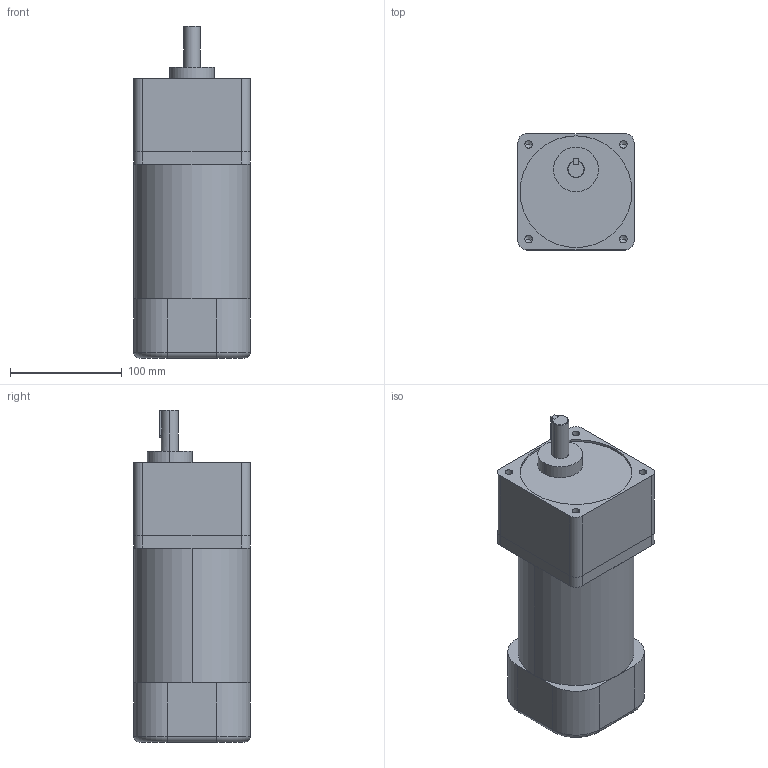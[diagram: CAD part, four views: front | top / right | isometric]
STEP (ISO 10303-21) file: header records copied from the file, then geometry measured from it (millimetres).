
FILE_DESCRIPTION (( 'STEP AP203' ), '1' );
FILE_NAME ('M6TK-150C.STEP', '2019-02-15T06:53:26', ( 'User' ), ( 'www.dadighost.com' ), 'SwSTEP 2.0', 'SolidWorks 2014', '' );
FILE_SCHEMA (( 'CONFIG_CONTROL_DESIGN' ));
Length unit declared in the file: millimetre
Products named in the file (1): M6TK-150C
Bounding box: 104 x 104 x 297 mm (x, y, z)
Volume: 2382316.6 mm3; surface area: 139937.2 mm2
Topology: 3 solids, 3 shells, 85 faces, 198 edges, 118 vertices
Faces by surface type: cylinder 35, plane 35, cone 11, torus 4
Entity records: 2461 total; most frequent: DIRECTION 440, CARTESIAN_POINT 431, ORIENTED_EDGE 380, EDGE_CURVE 190, AXIS2_PLACEMENT_3D 167, VERTEX_POINT 118, LINE 106, VECTOR 106
